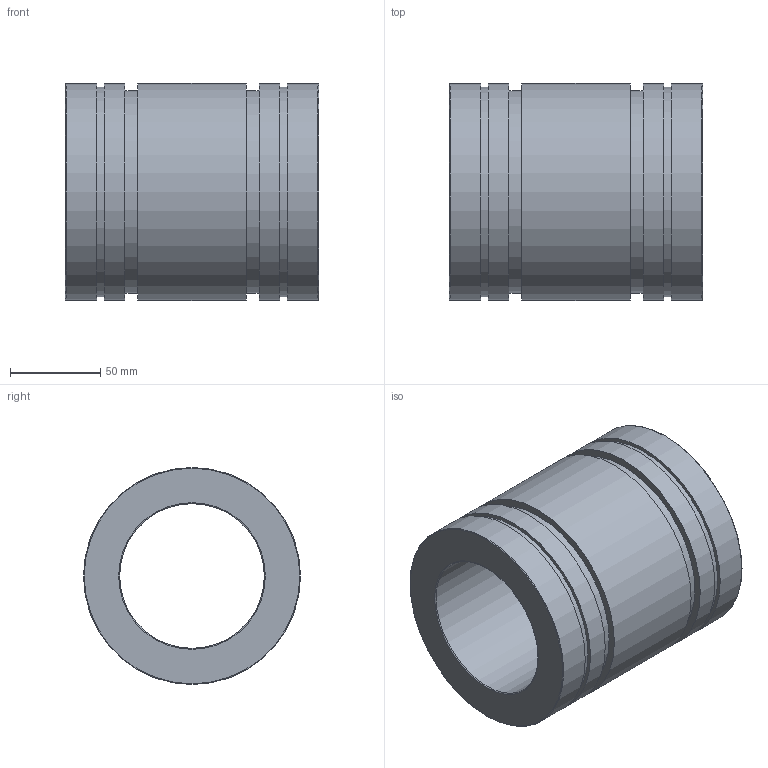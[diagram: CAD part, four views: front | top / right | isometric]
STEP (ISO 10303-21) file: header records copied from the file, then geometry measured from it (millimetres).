
FILE_DESCRIPTION(('STEP AP203'),'1');
FILE_NAME('//192.168.1.1/share/s-4 技術開発/s-4-4_CAD/s-4-4-3_見直し済み/PBC LINEAR修正済み/3D途中/FJ/FJ80.step','2022-03-24T06:51:26',(' '),(' '),'Spatial InterOp 3D',' ',' ');
FILE_SCHEMA(('CONFIG_CONTROL_DESIGN'));
Length unit declared in the file: millimetre
Products named in the file (1): 1
Bounding box: 140 x 120 x 120 mm (x, y, z)
Volume: 851943.1 mm3; surface area: 108800.5 mm2
Topology: 1 solids, 1 shells, 24 faces, 38 edges, 24 vertices
Faces by surface type: cylinder 10, plane 10, torus 4
Full cylindrical faces by diameter (mm): 80 x1, 111.727 x2, 116 x2, 120 x5
Entity records: 532 total; most frequent: DIRECTION 98, CARTESIAN_POINT 73, AXIS2_PLACEMENT_3D 49, EDGE_LOOP 48, ORIENTED_EDGE 48, FACE_OUTER_BOUND 38, ADVANCED_FACE 24, EDGE_CURVE 24
